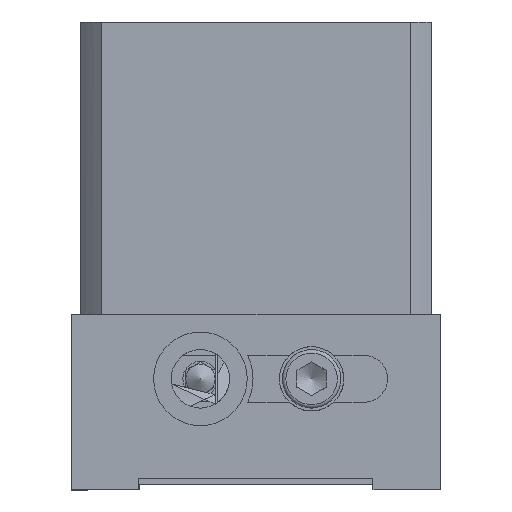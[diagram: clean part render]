
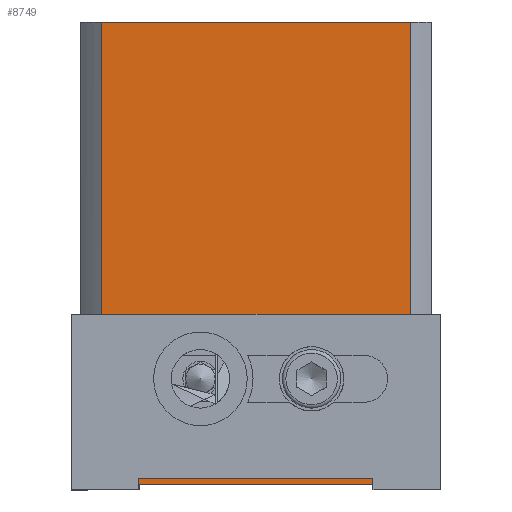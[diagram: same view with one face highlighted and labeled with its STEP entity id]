
A CAD part, left-side view. The second image highlights one B-rep face of the part: STEP entity #8749.
In plain terms, the highlighted planar face has unit normal (-1, 0, 0).
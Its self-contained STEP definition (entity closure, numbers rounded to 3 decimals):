
#1360=CARTESIAN_POINT('',(-30.,47.5,-61.));
#1361=VERTEX_POINT('',#1360);
#1362=CARTESIAN_POINT('',(-30.,39.5,-61.));
#1363=DIRECTION('',(-1.0,0.0,0.0));
#1364=DIRECTION('',(0.0,1.0,0.0));
#1365=AXIS2_PLACEMENT_3D('',#1362,#1363,#1364);
#1366=CIRCLE('',#1365,8.0);
#1367=EDGE_CURVE('',#1361,#1361,#1366,.T.);
#4524=CARTESIAN_POINT('',(-30.,28.5,-61.));
#4525=VERTEX_POINT('',#4524);
#4526=CARTESIAN_POINT('',(-30.,20.5,-61.));
#4527=DIRECTION('',(-1.0,0.0,0.0));
#4528=DIRECTION('',(0.0,-1.0,0.0));
#4529=AXIS2_PLACEMENT_3D('',#4526,#4527,#4528);
#4530=CIRCLE('',#4529,8.0);
#4531=EDGE_CURVE('',#4525,#4525,#4530,.T.);
#5908=CARTESIAN_POINT('',(-30.,3.542,-76.542));
#5909=VERTEX_POINT('',#5908);
#5917=CARTESIAN_POINT('',(-30.,6.,-79.0));
#5918=VERTEX_POINT('',#5917);
#5919=CARTESIAN_POINT('',(-30.,3.542,-76.542));
#5920=DIRECTION('',(0.,0.707,-0.707));
#5921=VECTOR('',#5920,3.475);
#5922=LINE('',#5919,#5921);
#5923=EDGE_CURVE('',#5909,#5918,#5922,.T.);
#6035=CARTESIAN_POINT('',(-30.,56.458,-76.542));
#6036=VERTEX_POINT('',#6035);
#6105=CARTESIAN_POINT('',(-30.,54.,-79.));
#6106=VERTEX_POINT('',#6105);
#6113=CARTESIAN_POINT('',(-30.,54.,-79.));
#6114=DIRECTION('',(0.,0.707,0.707));
#6115=VECTOR('',#6114,3.475);
#6116=LINE('',#6113,#6115);
#6117=EDGE_CURVE('',#6106,#6036,#6116,.T.);
#6373=CARTESIAN_POINT('',(-30.,54.,-79.));
#6374=DIRECTION('',(0.0,-1.0,0.0));
#6375=VECTOR('',#6374,48.0);
#6376=LINE('',#6373,#6375);
#6377=EDGE_CURVE('',#6106,#5918,#6376,.T.);
#7772=CARTESIAN_POINT('',(-30.,56.458,0.0));
#7773=VERTEX_POINT('',#7772);
#7781=CARTESIAN_POINT('',(-30.,3.542,0.0));
#7782=VERTEX_POINT('',#7781);
#7783=CARTESIAN_POINT('',(-30.0,56.458,0.0));
#7784=DIRECTION('',(0.0,-1.0,0.0));
#7785=VECTOR('',#7784,52.915);
#7786=LINE('',#7783,#7785);
#7787=EDGE_CURVE('',#7773,#7782,#7786,.T.);
#8657=CARTESIAN_POINT('',(-30.,3.542,0.0));
#8658=DIRECTION('',(0.0,0.0,-1.0));
#8659=VECTOR('',#8658,76.542);
#8660=LINE('',#8657,#8659);
#8661=EDGE_CURVE('',#7782,#5909,#8660,.T.);
#8718=CARTESIAN_POINT('',(-30.,56.458,0.0));
#8719=DIRECTION('',(0.0,0.0,-1.0));
#8720=VECTOR('',#8719,76.542);
#8721=LINE('',#8718,#8720);
#8722=EDGE_CURVE('',#7773,#6036,#8721,.T.);
#8730=CARTESIAN_POINT('',(-30.,56.458,0.0));
#8731=DIRECTION('',(-1.0,0.0,0.0));
#8732=DIRECTION('',(0.0,0.0,1.0));
#8733=AXIS2_PLACEMENT_3D('',#8730,#8731,#8732);
#8734=PLANE('',#8733);
#8735=ORIENTED_EDGE('',*,*,#8661,.F.);
#8736=ORIENTED_EDGE('',*,*,#7787,.F.);
#8737=ORIENTED_EDGE('',*,*,#8722,.T.);
#8738=ORIENTED_EDGE('',*,*,#6117,.F.);
#8739=ORIENTED_EDGE('',*,*,#6377,.T.);
#8740=ORIENTED_EDGE('',*,*,#5923,.F.);
#8741=EDGE_LOOP('',(#8735,#8736,#8737,#8738,#8739,#8740));
#8742=FACE_OUTER_BOUND('',#8741,.T.);
#8743=ORIENTED_EDGE('',*,*,#1367,.F.);
#8744=EDGE_LOOP('',(#8743));
#8745=FACE_BOUND('',#8744,.T.);
#8746=ORIENTED_EDGE('',*,*,#4531,.F.);
#8747=EDGE_LOOP('',(#8746));
#8748=FACE_BOUND('',#8747,.T.);
#8749=ADVANCED_FACE('',(#8742,#8745,#8748),#8734,.T.);
